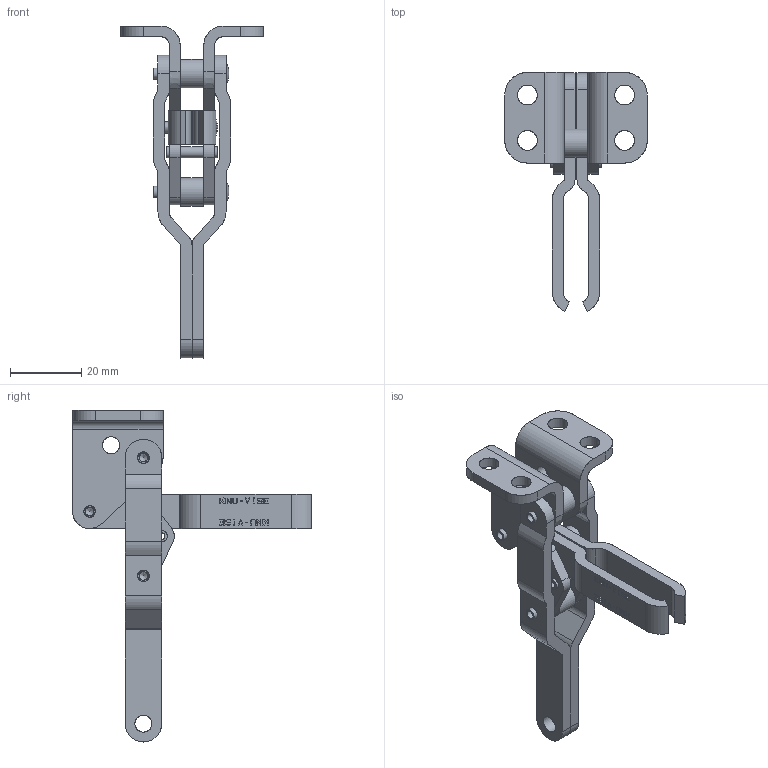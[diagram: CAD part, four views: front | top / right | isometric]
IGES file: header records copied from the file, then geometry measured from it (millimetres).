
Global section: file name: F:\Furrer\220 series\220iges\v-220.igs; native system: Unigraphics Version X V2.0; preprocessor: Unigraphics NX IGES V2.0; date: 20041208.233747; units: inch
Bounding box: 39.93 x 66.95 x 93.03 mm (x, y, z)
Surface area: 16284.7 mm2 (no closed solid volume)
Topology: 0 solids, 0 shells, 584 faces, 5238 edges, 5188 vertices
Faces by surface type: extrusion 486, revolution 94, offset 4
